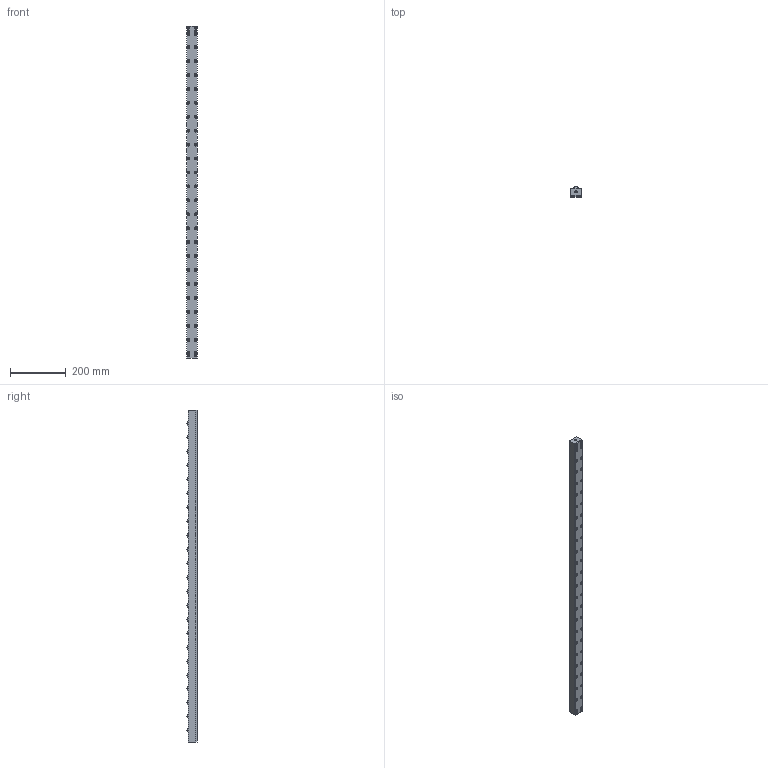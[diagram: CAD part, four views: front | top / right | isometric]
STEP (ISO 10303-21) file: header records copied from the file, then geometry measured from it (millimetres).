
FILE_DESCRIPTION (( 'STEP AP203' ), '1' );
FILE_NAME ('PVL30SL-23-P50.STEP', '2016-02-18T09:12:33', ( '' ), ( '' ), 'SwSTEP 2.0', 'SolidWorks 2013', '' );
FILE_SCHEMA (( 'CONFIG_CONTROL_DESIGN' ));
Length unit declared in the file: millimetre
Products named in the file (1): PVL30SL-23-P50
Bounding box: 38 x 36 x 1190 mm (x, y, z)
Volume: 1407307.4 mm3; surface area: 385164.4 mm2
Topology: 9 solids, 9 shells, 931 faces, 2112 edges, 1404 vertices
Faces by surface type: plane 519, cylinder 326, sphere 46, cone 40
Entity records: 26373 total; most frequent: DIRECTION 4758, CARTESIAN_POINT 4434, ORIENTED_EDGE 4196, EDGE_CURVE 2098, AXIS2_PLACEMENT_3D 1728, VERTEX_POINT 1404, LINE 1302, VECTOR 1302
